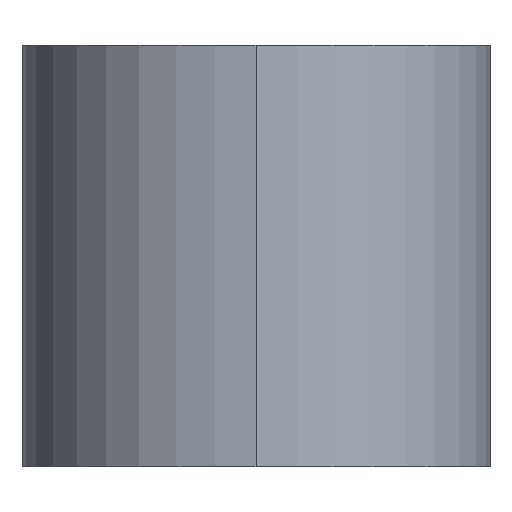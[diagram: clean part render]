
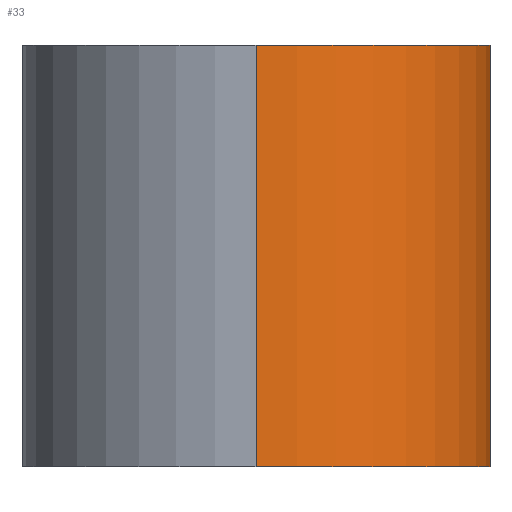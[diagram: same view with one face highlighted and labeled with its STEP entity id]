
A CAD part, front view. The second image highlights one B-rep face of the part: STEP entity #33.
In plain terms, the highlighted cylindrical face has radius 2.5 mm (diameter 5 mm), a partial arc.
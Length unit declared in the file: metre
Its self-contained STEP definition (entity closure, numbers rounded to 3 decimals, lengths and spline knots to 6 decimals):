
#12 = LINE ( 'NONE', #352, #249 ) ;
#20 = CIRCLE ( 'NONE', #236, 0.0025 ) ;
#29 = CARTESIAN_POINT ( 'NONE',  ( 0.0025, -0.01375, 0.0045 ) ) ;
#33 = ADVANCED_FACE ( 'NONE', ( #228 ), #379, .T. ) ;
#34 = CARTESIAN_POINT ( 'NONE',  ( 0., -0.01625, 0.0045 ) ) ;
#35 = ORIENTED_EDGE ( 'NONE', *, *, #74, .F. ) ;
#67 = VERTEX_POINT ( 'NONE', #104 ) ;
#69 = CARTESIAN_POINT ( 'NONE',  ( 0.0025, -0.01375, 0. ) ) ;
#74 = EDGE_CURVE ( 'NONE', #191, #117, #12, .T. ) ;
#78 = ORIENTED_EDGE ( 'NONE', *, *, #387, .F. ) ;
#86 = DIRECTION ( 'NONE',  ( 0., 0., -1. ) ) ;
#94 = DIRECTION ( 'NONE',  ( 0., 0., -1. ) ) ;
#104 = CARTESIAN_POINT ( 'NONE',  ( 0., -0.01625, 0. ) ) ;
#112 = AXIS2_PLACEMENT_3D ( 'NONE', #313, #219, #283 ) ;
#117 = VERTEX_POINT ( 'NONE', #69 ) ;
#127 = DIRECTION ( 'NONE',  ( 0., 0., 1. ) ) ;
#131 = CARTESIAN_POINT ( 'NONE',  ( 0., -0.01375, 0.0045 ) ) ;
#183 = CIRCLE ( 'NONE', #112, 0.0025 ) ;
#184 = VERTEX_POINT ( 'NONE', #34 ) ;
#191 = VERTEX_POINT ( 'NONE', #29 ) ;
#197 = AXIS2_PLACEMENT_3D ( 'NONE', #131, #349, #322 ) ;
#216 = DIRECTION ( 'NONE',  ( 1., 0., 0. ) ) ;
#219 = DIRECTION ( 'NONE',  ( 0., 0., 1. ) ) ;
#228 = FACE_OUTER_BOUND ( 'NONE', #341, .T. ) ;
#236 = AXIS2_PLACEMENT_3D ( 'NONE', #369, #94, #216 ) ;
#249 = VECTOR ( 'NONE', #86, 1. ) ;
#268 = ORIENTED_EDGE ( 'NONE', *, *, #291, .F. ) ;
#274 = CARTESIAN_POINT ( 'NONE',  ( 0., -0.01625, 0.0045 ) ) ;
#276 = ORIENTED_EDGE ( 'NONE', *, *, #353, .F. ) ;
#283 = DIRECTION ( 'NONE',  ( 1., 0., 0. ) ) ;
#291 = EDGE_CURVE ( 'NONE', #117, #67, #20, .T. ) ;
#313 = CARTESIAN_POINT ( 'NONE',  ( 0., -0.01375, 0.0045 ) ) ;
#322 = DIRECTION ( 'NONE',  ( -1., 0., 0. ) ) ;
#341 = EDGE_LOOP ( 'NONE', ( #35, #276, #78, #268 ) ) ;
#345 = LINE ( 'NONE', #274, #404 ) ;
#349 = DIRECTION ( 'NONE',  ( 0., 0., -1. ) ) ;
#352 = CARTESIAN_POINT ( 'NONE',  ( 0.0025, -0.01375, 0.0045 ) ) ;
#353 = EDGE_CURVE ( 'NONE', #184, #191, #183, .T. ) ;
#369 = CARTESIAN_POINT ( 'NONE',  ( 0., -0.01375, 0. ) ) ;
#379 = CYLINDRICAL_SURFACE ( 'NONE', #197, 0.0025 ) ;
#387 = EDGE_CURVE ( 'NONE', #67, #184, #345, .T. ) ;
#404 = VECTOR ( 'NONE', #127, 1. ) ;
